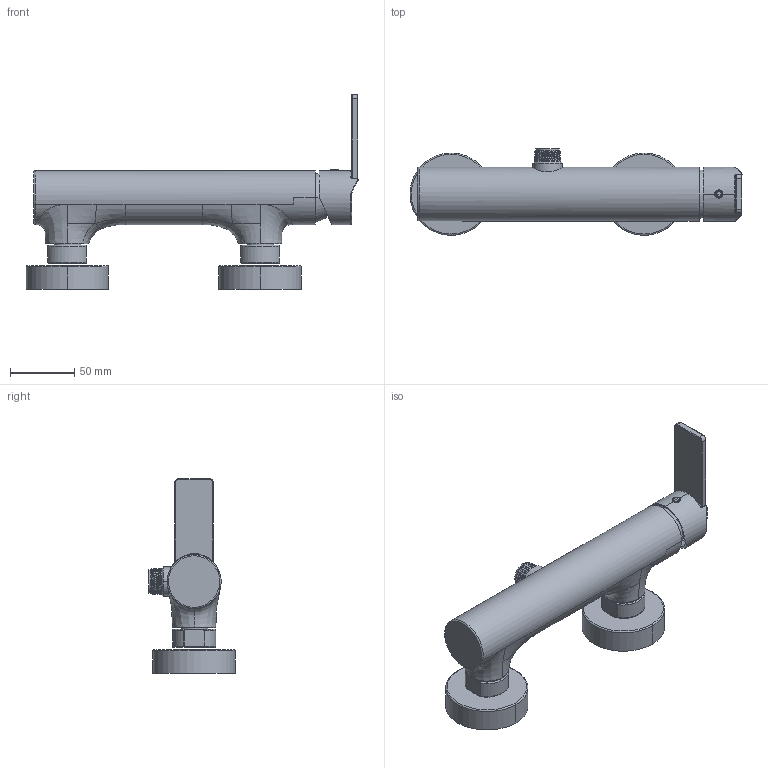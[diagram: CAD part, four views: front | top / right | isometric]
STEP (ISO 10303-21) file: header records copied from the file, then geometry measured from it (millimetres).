
FILE_DESCRIPTION((''),'2;1');
FILE_NAME('47007_SW0001','2024-02-21T09:35:14',('volponeff'),(''),'CREO PARAMETRIC BY PTC INC, 2022014','CREO PARAMETRIC BY PTC INC, 2022014','');
FILE_SCHEMA(('CONFIG_CONTROL_DESIGN'));
Products named in the file (1): 47007_SW0001
Bounding box: 258.1 x 67.3 x 151.3 mm (x, y, z)
Volume: 216631.8 mm3; surface area: 147379.4 mm2
Topology: 5 solids, 6 shells, 1417 faces, 3707 edges, 2326 vertices
Faces by surface type: cylinder 442, plane 379, bspline 286, cone 173, torus 123, sphere 14
Entity records: 78841 total; most frequent: CARTESIAN_POINT 45770, ORIENTED_EDGE 7402, DIRECTION 6340, EDGE_CURVE 3701, AXIS2_PLACEMENT_3D 2454, VERTEX_POINT 2326, EDGE_LOOP 1495, VECTOR 1432
